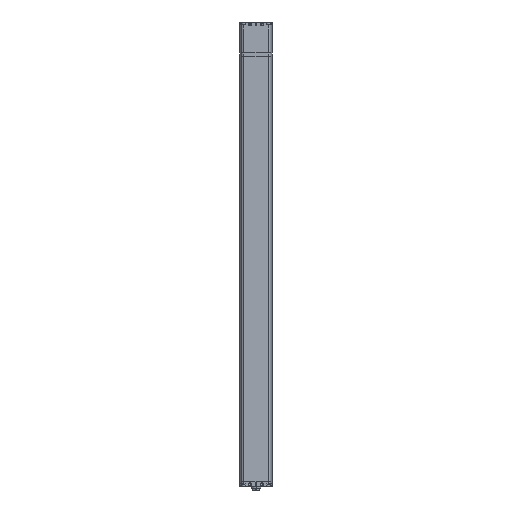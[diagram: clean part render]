
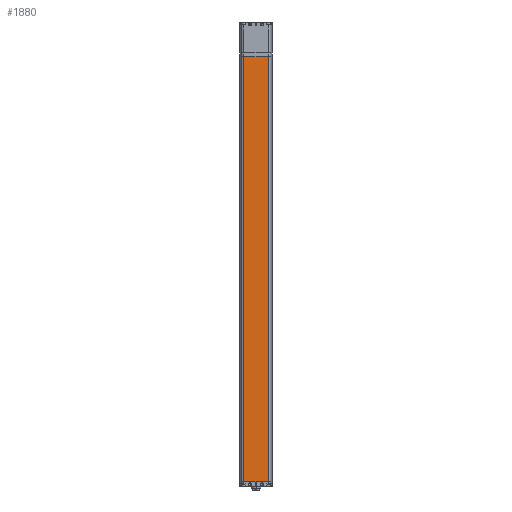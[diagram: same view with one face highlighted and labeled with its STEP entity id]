
A CAD part, front view. The second image highlights one B-rep face of the part: STEP entity #1880.
In plain terms, the highlighted planar face has unit normal (0, -1, 0).
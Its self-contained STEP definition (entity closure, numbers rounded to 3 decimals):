
#1244 = PLANE ( 'NONE',  #3708 ) ;
#1299 = VERTEX_POINT ( 'NONE', #8131 ) ;
#1880 = ADVANCED_FACE ( 'NONE', ( #5280 ), #1244, .T. ) ;
#2079 = EDGE_LOOP ( 'NONE', ( #2242, #11385, #8807, #8138 ) ) ;
#2242 = ORIENTED_EDGE ( 'NONE', *, *, #17693, .T. ) ;
#3708 = AXIS2_PLACEMENT_3D ( 'NONE', #16120, #12712, #16480 ) ;
#3763 = VECTOR ( 'NONE', #8055, 1000. ) ;
#4367 = EDGE_CURVE ( 'NONE', #1299, #10466, #12203, .T. ) ;
#4473 = VECTOR ( 'NONE', #19196, 1000. ) ;
#4523 = CARTESIAN_POINT ( 'NONE',  ( -41., -41., -73. ) ) ;
#5280 = FACE_OUTER_BOUND ( 'NONE', #2079, .T. ) ;
#6042 = EDGE_CURVE ( 'NONE', #6055, #10466, #22961, .T. ) ;
#6055 = VERTEX_POINT ( 'NONE', #12180 ) ;
#6499 = CARTESIAN_POINT ( 'NONE',  ( -31.138, -41., -1151. ) ) ;
#8055 = DIRECTION ( 'NONE',  ( 1., 0., 0. ) ) ;
#8131 = CARTESIAN_POINT ( 'NONE',  ( 31.138, -41., -1151. ) ) ;
#8138 = ORIENTED_EDGE ( 'NONE', *, *, #6042, .F. ) ;
#8433 = DIRECTION ( 'NONE',  ( 0., 0., -1. ) ) ;
#8807 = ORIENTED_EDGE ( 'NONE', *, *, #4367, .T. ) ;
#10466 = VERTEX_POINT ( 'NONE', #17087 ) ;
#11385 = ORIENTED_EDGE ( 'NONE', *, *, #11490, .T. ) ;
#11490 = EDGE_CURVE ( 'NONE', #14850, #1299, #18866, .T. ) ;
#11984 = CARTESIAN_POINT ( 'NONE',  ( 31.138, -41., -1073. ) ) ;
#12082 = CARTESIAN_POINT ( 'NONE',  ( -31.138, -41., -1073. ) ) ;
#12180 = CARTESIAN_POINT ( 'NONE',  ( -31.138, -41., -73. ) ) ;
#12203 = LINE ( 'NONE', #11984, #4473 ) ;
#12712 = DIRECTION ( 'NONE',  ( 0., -1., 0. ) ) ;
#14091 = VECTOR ( 'NONE', #19113, 1000. ) ;
#14850 = VERTEX_POINT ( 'NONE', #6499 ) ;
#16120 = CARTESIAN_POINT ( 'NONE',  ( -41., -41., -1073. ) ) ;
#16480 = DIRECTION ( 'NONE',  ( 0., 0., -1. ) ) ;
#17087 = CARTESIAN_POINT ( 'NONE',  ( 31.138, -41., -73. ) ) ;
#17215 = VECTOR ( 'NONE', #8433, 1000. ) ;
#17693 = EDGE_CURVE ( 'NONE', #6055, #14850, #19313, .T. ) ;
#18866 = LINE ( 'NONE', #20950, #14091 ) ;
#19113 = DIRECTION ( 'NONE',  ( 1., 0., 0. ) ) ;
#19196 = DIRECTION ( 'NONE',  ( 0., 0., 1. ) ) ;
#19313 = LINE ( 'NONE', #12082, #17215 ) ;
#20950 = CARTESIAN_POINT ( 'NONE',  ( -41., -41., -1151. ) ) ;
#22961 = LINE ( 'NONE', #4523, #3763 ) ;
